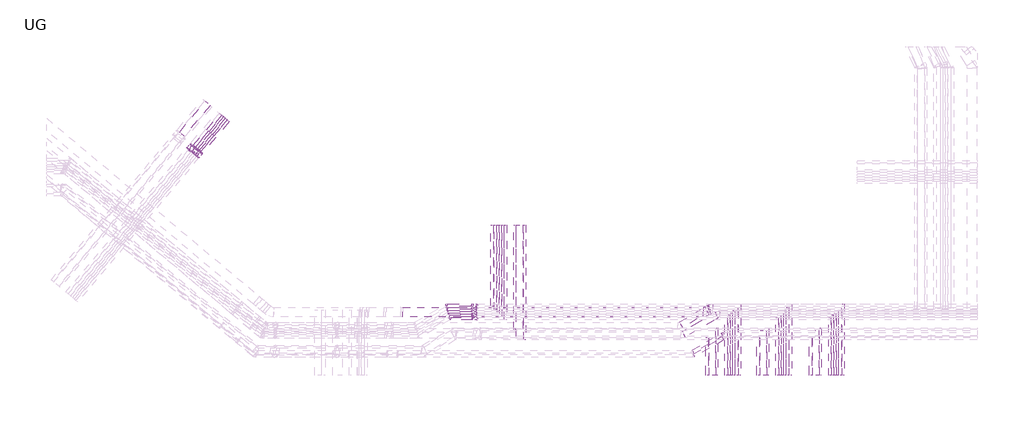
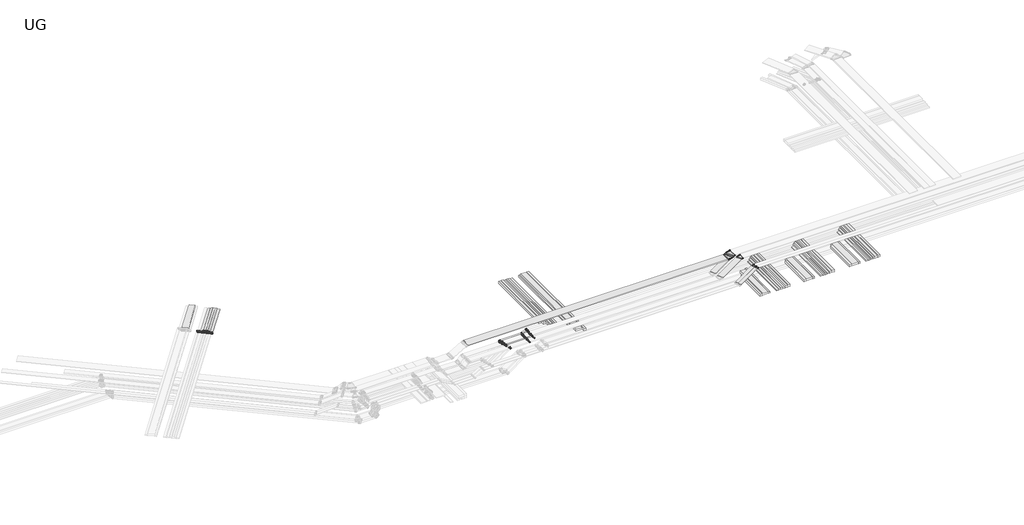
# One storey, part 9 of 14: 66 cable carrier segments, 35 cable carrier fittings.
"""IFC4 building model written with IfcOpenShell, lengths in millimetres."""

from ifc_helpers import new_model, si_unit, frame, origin, place, context, project, spatial, polyline, outline, extrude, transform, mapped, element, save
from components import cable_tray_horizontal_bend_a37de1d9, cable_tray_horizontal_bend_fe87960c, cable_tray_horizontal_bend_6dfea8e0, cable_tray_horizontal_bend_a9337890, cable_tray_horizontal_bend_bf25e040, cable_tray_horizontal_bend_72472c01, cable_tray_horizontal_bend_c8e18077, cable_tray_horizontal_bend_4a9e27ca, cable_tray_vertical_inside_bend_842d2f61, cable_tray_vertical_inside_bend_116ae7c4, cable_tray_vertical_inside_bend_28de77c7, cable_tray_vertical_inside_bend_b77830ab, cable_tray_vertical_inside_bend_fd30bc78, cable_tray_vertical_inside_bend_52d12825, cable_tray_vertical_outside_bend_fceaed45, cable_tray_vertical_outside_bend_ce2e8d87, cable_tray_vertical_outside_bend_05a7bdd1, cable_tray_vertical_outside_bend_a0ea44ad, cable_tray_vertical_outside_bend_6aaffd74, cable_tray_vertical_outside_bend_f33e1a20, cable_tray_vertical_outside_bend_f54c5729

model = new_model("IFC4")

# Units and contexts
model_context = context("Model", 3, world=origin())
ifc_project = project(units=[si_unit("LENGTHUNIT", "METRE", prefix="MILLI")], contexts=[model_context])

# Site, building, storey
site = spatial("IfcSite", under=ifc_project)
building = spatial("IfcBuilding", under=site)
storey = spatial("IfcBuildingStorey", under=building, Name="UG", Elevation=7925.0)

# Cable carrier fittings
placement = place(None, origin())
cable_tray_horizontal_bend_shape = cable_tray_horizontal_bend_a37de1d9(model_context)
element("IfcCableCarrierFitting", 1, ObjectType="Cable Tray Horizontal Bend : ELEC_ELV_TKG_N2402", at=placement, inside=storey, context=model_context, shape_type="MappedRepresentation", body=[
    mapped(cable_tray_horizontal_bend_shape, transform((128921.9755733, 34643.5234082, 12875.0), x_axis=(-0.6427876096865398, -0.7660444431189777, 0.0), y_axis=(0.0, 0.0, 1.0), z_axis=(-0.7660444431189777, 0.6427876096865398, 0.0))),
])
element("IfcCableCarrierFitting", 2, ObjectType="Cable Tray Horizontal Bend : ELEC_ELV_TKG_N2402", at=placement, inside=storey, context=model_context, shape_type="MappedRepresentation", body=[
    mapped(cable_tray_horizontal_bend_shape, transform((128807.0689069, 34739.9415497, 12875.0), x_axis=(-0.6427876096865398, -0.7660444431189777, 0.0), y_axis=(0.0, 0.0, 1.0), z_axis=(-0.7660444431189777, 0.6427876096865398, 0.0))),
])
element("IfcCableCarrierFitting", 3, ObjectType="Cable Tray Horizontal Bend : ELEC_ELV_TKG_N2402", at=placement, inside=storey, context=model_context, shape_type="MappedRepresentation", body=[
    mapped(cable_tray_horizontal_bend_shape, transform((128692.1622404, 34836.3596911, 12875.0), x_axis=(-0.6427876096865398, -0.7660444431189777, 0.0), y_axis=(0.0, 0.0, 1.0), z_axis=(-0.7660444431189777, 0.6427876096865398, 0.0))),
])
cable_tray_horizontal_bend_2_shape = cable_tray_horizontal_bend_fe87960c(model_context)
element("IfcCableCarrierFitting", 4, ObjectType="Cable Tray Horizontal Bend : ELEC_ELV_CT_N2402", at=placement, inside=storey, context=model_context, shape_type="MappedRepresentation", body=[
    mapped(cable_tray_horizontal_bend_2_shape, transform((129030.2012532, 34539.1933451, 12850.0), x_axis=(-0.6427876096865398, -0.7660444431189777, 0.0), y_axis=(0.0, 0.0, 1.0), z_axis=(-0.7660444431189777, 0.6427876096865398, 0.0))),
])
element("IfcCableCarrierFitting", 5, ObjectType="Cable Tray Horizontal Bend : ELEC_ELV_CT_N2402", at=placement, inside=storey, context=model_context, shape_type="MappedRepresentation", body=[
    mapped(cable_tray_horizontal_bend_2_shape, transform((128551.4234763, 34940.9356011, 12850.0), x_axis=(-0.6427876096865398, -0.7660444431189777, 0.0), y_axis=(0.0, 0.0, 1.0), z_axis=(-0.7660444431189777, 0.6427876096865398, 0.0))),
])
element("IfcCableCarrierFitting", 6, ObjectType="Cable Tray Horizontal Bend : ELEC_ELV_CT_N2402", at=placement, inside=storey, context=model_context, shape_type="MappedRepresentation", body=[
    mapped(cable_tray_horizontal_bend_2_shape, transform((128398.2145876, 35069.4931231, 12850.0), x_axis=(-0.6427876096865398, -0.7660444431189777, 0.0), y_axis=(0.0, 0.0, 1.0), z_axis=(-0.7660444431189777, 0.6427876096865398, 0.0))),
])
cable_tray_horizontal_bend_3_shape = cable_tray_horizontal_bend_6dfea8e0(model_context)
element("IfcCableCarrierFitting", 7, ObjectType="Cable Tray Horizontal Bend : ELEC_SUB_CT_N2402", at=placement, inside=storey, context=model_context, shape_type="MappedRepresentation", body=[
    mapped(cable_tray_horizontal_bend_3_shape, transform((161471.3279101, 24400.000008, 13500.0), x_axis=(-1.0, 0.0, 0.0), y_axis=(0.0, -1.0, 0.0), z_axis=(0.0, 0.0, 1.0))),
])
element("IfcCableCarrierFitting", 8, ObjectType="Cable Tray Horizontal Bend : ELEC_SUB_CT_N2402", at=placement, inside=storey, context=model_context, shape_type="MappedRepresentation", body=[
    mapped(cable_tray_horizontal_bend_3_shape, transform((161031.8306068, 24850.000008, 13499.9999917), x_axis=(-1.0, 0.0, 0.0), y_axis=(0.0, -1.0, 0.0), z_axis=(0.0, 0.0, 1.0))),
])
cable_tray_horizontal_bend_4_shape = cable_tray_horizontal_bend_a9337890(model_context)
element("IfcCableCarrierFitting", 9, ObjectType="Cable Tray Horizontal Bend : ELEC_SUB_CT_N2402", at=placement, inside=storey, context=model_context, shape_type="MappedRepresentation", body=[
    mapped(cable_tray_horizontal_bend_4_shape, transform((161821.4439974, 22899.9891021, 13499.999992), x_axis=(-1.0, 0.0, 0.0), y_axis=(0.0, -1.0, 0.0), z_axis=(0.0, 0.0, 1.0))),
])
element("IfcCableCarrierFitting", 10, ObjectType="Cable Tray Horizontal Bend : ELEC_SUB_CT_N2402", at=placement, inside=storey, context=model_context, shape_type="MappedRepresentation", body=[
    mapped(cable_tray_horizontal_bend_4_shape, transform((161754.4566993, 23149.9891021, 13499.999992), x_axis=(-1.0, 0.0, 0.0), y_axis=(0.0, -1.0, 0.0), z_axis=(0.0, 0.0, 1.0))),
])
cable_tray_horizontal_bend_5_shape = cable_tray_horizontal_bend_bf25e040(model_context)
element("IfcCableCarrierFitting", 11, ObjectType="Cable Tray Horizontal Bend : ELEC_SUB_CT_N2402", at=placement, inside=storey, context=model_context, shape_type="MappedRepresentation", body=[
    mapped(cable_tray_horizontal_bend_5_shape, transform((161005.7568709, 24750.000008, 13725.0), x_axis=(-1.0, 0.0, 0.0), y_axis=(0.0, -1.0, 0.0), z_axis=(0.0, 0.0, 1.0))),
])
element("IfcCableCarrierFitting", 12, ObjectType="Cable Tray Horizontal Bend : ELEC_SUB_CT_N2402", at=placement, inside=storey, context=model_context, shape_type="MappedRepresentation", body=[
    mapped(cable_tray_horizontal_bend_5_shape, transform((160659.3011524, 24549.9737056, 13725.0), x_axis=(1.0, 0.0, 0.0), y_axis=(0.0, 1.0, 0.0), z_axis=(0.0, 0.0, 1.0))),
])
cable_tray_horizontal_bend_6_shape = cable_tray_horizontal_bend_72472c01(model_context)
element("IfcCableCarrierFitting", 13, ObjectType="Cable Tray Horizontal Bend : ELEC_ELV_TKG_N2402", at=placement, inside=storey, context=model_context, shape_type="MappedRepresentation", body=[
    mapped(cable_tray_horizontal_bend_6_shape, transform((144467.3164108, 24775.0000035, 12649.8542086), x_axis=(-0.99999999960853, 0.0, 2.7981063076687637e-05), y_axis=(2.0978811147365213e-10, -0.9999999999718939, 7.497503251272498e-06), z_axis=(2.7981063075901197e-05, 7.497503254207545e-06, 0.999999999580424))),
])
element("IfcCableCarrierFitting", 14, ObjectType="Cable Tray Horizontal Bend : ELEC_ELV_TKG_N2402", at=placement, inside=storey, context=model_context, shape_type="MappedRepresentation", body=[
    mapped(cable_tray_horizontal_bend_6_shape, transform((144413.7265723, 24975.0000035, 12649.8527091), x_axis=(-0.9999999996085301, 0.0, 2.798106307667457e-05), y_axis=(2.0978811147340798e-10, -0.9999999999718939, 7.497503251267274e-06), z_axis=(2.7981063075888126e-05, 7.4975032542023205e-06, 0.9999999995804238))),
])
cable_tray_horizontal_bend_7_shape = cable_tray_horizontal_bend_c8e18077(model_context)
element("IfcCableCarrierFitting", 15, ObjectType="Cable Tray Horizontal Bend : ELEC_ELV_TKG_N2402", at=placement, inside=storey, context=model_context, shape_type="MappedRepresentation", body=[
    mapped(cable_tray_horizontal_bend_7_shape, transform((144554.3998983, 24450.0000036, 12624.8566452), x_axis=(-0.9999999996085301, 0.0, 2.798106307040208e-05), y_axis=(2.0978811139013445e-10, -0.999999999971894, 7.497503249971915e-06), z_axis=(2.798106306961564e-05, 7.4975032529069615e-06, 0.999999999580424))),
])
element("IfcCableCarrierFitting", 16, ObjectType="Cable Tray Horizontal Bend : ELEC_ELV_TKG_N2402", at=placement, inside=storey, context=model_context, shape_type="MappedRepresentation", body=[
    mapped(cable_tray_horizontal_bend_7_shape, transform((144514.2075195, 24600.0000036, 12624.855051), x_axis=(-0.9999999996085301, 0.0, 2.7981063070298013e-05), y_axis=(2.0978811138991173e-10, -0.9999999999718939, 7.49750324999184e-06), z_axis=(2.7981063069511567e-05, 7.497503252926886e-06, 0.9999999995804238))),
])
cable_tray_horizontal_bend_8_shape = cable_tray_horizontal_bend_4a9e27ca(model_context)
element("IfcCableCarrierFitting", 17, ObjectType="Cable Tray Horizontal Bend : ELEC_ELV_CT_N2402", at=placement, inside=storey, context=model_context, shape_type="MappedRepresentation", body=[
    mapped(cable_tray_horizontal_bend_8_shape, transform((144641.4833859, 24125.0000036, 12599.8578376), x_axis=(-0.9999999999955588, 0.0, -2.9803507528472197e-06), y_axis=(-3.481129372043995e-10, -0.9999999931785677, 0.00011680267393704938), z_axis=(-2.980350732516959e-06, 0.00011680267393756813, 0.9999999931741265))),
])
cable_tray_vertical_inside_bend_shape = cable_tray_vertical_inside_bend_842d2f61(model_context)
element("IfcCableCarrierFitting", 18, ObjectType="Cable Tray Vertical Inside Bend : ELEC_ELV_CT_N2402", at=placement, inside=storey, context=model_context, shape_type="MappedRepresentation", body=[
    mapped(cable_tray_vertical_inside_bend_shape, transform((146020.8761882, 24125.0000036, 12599.8750622), x_axis=(-0.8660254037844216, 0.0, -0.5000000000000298), y_axis=(-0.5000000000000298, 0.0, 0.8660254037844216), z_axis=(0.0, 1.0, 0.0))),
])
cable_tray_vertical_inside_bend_2_shape = cable_tray_vertical_inside_bend_116ae7c4(model_context)
element("IfcCableCarrierFitting", 19, ObjectType="Cable Tray Vertical Inside Bend : ELEC_ELV_TKG_N2402", at=placement, inside=storey, context=model_context, shape_type="MappedRepresentation", body=[
    mapped(cable_tray_vertical_inside_bend_2_shape, transform((146014.1777906, 24300.0000036, 12624.875254), x_axis=(-0.8660254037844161, 0.0, -0.5000000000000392), y_axis=(-0.5000000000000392, 0.0, 0.8660254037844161), z_axis=(0.0, 1.0, 0.0))),
])
cable_tray_vertical_inside_bend_3_shape = cable_tray_vertical_inside_bend_28de77c7(model_context)
element("IfcCableCarrierFitting", 20, ObjectType="Cable Tray Vertical Inside Bend : ELEC_ELV_TKG_N2402", at=placement, inside=storey, context=model_context, shape_type="MappedRepresentation", body=[
    mapped(cable_tray_vertical_inside_bend_3_shape, transform((146014.1734692, 24450.0000036, 12624.8752586), x_axis=(-0.8660254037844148, 0.0, -0.5000000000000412), y_axis=(-0.5000000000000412, 0.0, 0.8660254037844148), z_axis=(0.0, 1.0, 0.0))),
])
cable_tray_vertical_inside_bend_4_shape = cable_tray_vertical_inside_bend_b77830ab(model_context)
element("IfcCableCarrierFitting", 21, ObjectType="Cable Tray Vertical Inside Bend : ELEC_ELV_TKG_N2402", at=placement, inside=storey, context=model_context, shape_type="MappedRepresentation", body=[
    mapped(cable_tray_vertical_inside_bend_4_shape, transform((145997.3941908, 24600.0000036, 12624.8752656), x_axis=(-0.8660254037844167, 0.0, -0.5000000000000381), y_axis=(-0.5000000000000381, 0.0, 0.8660254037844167), z_axis=(0.0, 1.0, 0.0))),
])
cable_tray_vertical_inside_bend_5_shape = cable_tray_vertical_inside_bend_fd30bc78(model_context)
element("IfcCableCarrierFitting", 22, ObjectType="Cable Tray Vertical Inside Bend : ELEC_ELV_TKG_N2402", at=placement, inside=storey, context=model_context, shape_type="MappedRepresentation", body=[
    mapped(cable_tray_vertical_inside_bend_5_shape, transform((146007.4801577, 24775.0000035, 12649.8758873), x_axis=(-0.8660254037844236, 0.0, -0.5000000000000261), y_axis=(-0.5000000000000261, 0.0, 0.8660254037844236), z_axis=(0.0, 1.0, 0.0))),
])
cable_tray_vertical_inside_bend_6_shape = cable_tray_vertical_inside_bend_52d12825(model_context)
element("IfcCableCarrierFitting", 23, ObjectType="Cable Tray Vertical Inside Bend : ELEC_ELV_TKG_N2402", at=placement, inside=storey, context=model_context, shape_type="MappedRepresentation", body=[
    mapped(cable_tray_vertical_inside_bend_6_shape, transform((146007.4801729, 24975.0000035, 12649.8758961), x_axis=(-0.8660254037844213, 0.0, -0.5000000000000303), y_axis=(-0.5000000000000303, 0.0, 0.8660254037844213), z_axis=(0.0, 1.0, 0.0))),
])
cable_tray_vertical_outside_bend_shape = cable_tray_vertical_outside_bend_fceaed45(model_context)
element("IfcCableCarrierFitting", 24, ObjectType="Cable Tray Vertical Outside Bend : ELEC_ELV_TKG_N2402", at=placement, inside=storey, context=model_context, shape_type="MappedRepresentation", body=[
    mapped(cable_tray_vertical_outside_bend_shape, transform((128708.8031583, 34389.4744167, 13206.6374053), x_axis=(-0.45451947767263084, -0.5416752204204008, 0.7071067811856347), y_axis=(-0.4545194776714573, -0.5416752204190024, -0.7071067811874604), z_axis=(0.7660444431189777, -0.6427876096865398, 0.0))),
])
element("IfcCableCarrierFitting", 25, ObjectType="Cable Tray Vertical Outside Bend : ELEC_ELV_TKG_N2402", at=placement, inside=storey, context=model_context, shape_type="MappedRepresentation", body=[
    mapped(cable_tray_vertical_outside_bend_shape, transform((128593.8964918, 34485.8925582, 13206.6374053), x_axis=(-0.45451947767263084, -0.5416752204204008, 0.7071067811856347), y_axis=(-0.4545194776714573, -0.5416752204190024, -0.7071067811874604), z_axis=(0.7660444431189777, -0.6427876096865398, 0.0))),
])
element("IfcCableCarrierFitting", 26, ObjectType="Cable Tray Vertical Outside Bend : ELEC_ELV_TKG_N2402", at=placement, inside=storey, context=model_context, shape_type="MappedRepresentation", body=[
    mapped(cable_tray_vertical_outside_bend_shape, transform((128478.9898254, 34582.3106997, 13206.6374053), x_axis=(-0.45451947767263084, -0.5416752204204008, 0.7071067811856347), y_axis=(-0.4545194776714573, -0.5416752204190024, -0.7071067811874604), z_axis=(0.7660444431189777, -0.6427876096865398, 0.0))),
])
cable_tray_vertical_outside_bend_2_shape = cable_tray_vertical_outside_bend_ce2e8d87(model_context)
element("IfcCableCarrierFitting", 27, ObjectType="Cable Tray Vertical Outside Bend : ELEC_ELV_CT_N2402", at=placement, inside=storey, context=model_context, shape_type="MappedRepresentation", body=[
    mapped(cable_tray_vertical_outside_bend_2_shape, transform((128817.0288384, 34285.1443539, 13181.6374049), x_axis=(-0.4545194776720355, -0.5416752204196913, 0.707106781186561), y_axis=(-0.4545194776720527, -0.541675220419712, -0.7071067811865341), z_axis=(0.7660444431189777, -0.6427876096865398, 0.0))),
])
element("IfcCableCarrierFitting", 28, ObjectType="Cable Tray Vertical Outside Bend : ELEC_ELV_CT_N2402", at=placement, inside=storey, context=model_context, shape_type="MappedRepresentation", body=[
    mapped(cable_tray_vertical_outside_bend_2_shape, transform((128338.2510615, 34686.88661, 13181.6374049), x_axis=(-0.4545194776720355, -0.5416752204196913, 0.707106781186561), y_axis=(-0.4545194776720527, -0.541675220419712, -0.7071067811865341), z_axis=(0.7660444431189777, -0.6427876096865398, 0.0))),
])
element("IfcCableCarrierFitting", 29, ObjectType="Cable Tray Vertical Outside Bend : ELEC_ELV_CT_N2402", at=placement, inside=storey, context=model_context, shape_type="MappedRepresentation", body=[
    mapped(cable_tray_vertical_outside_bend_2_shape, transform((128185.0421729, 34815.4441319, 13181.6374049), x_axis=(-0.4545194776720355, -0.5416752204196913, 0.707106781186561), y_axis=(-0.4545194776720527, -0.541675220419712, -0.7071067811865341), z_axis=(0.7660444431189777, -0.6427876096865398, 0.0))),
])
cable_tray_vertical_outside_bend_3_shape = cable_tray_vertical_outside_bend_05a7bdd1(model_context)
element("IfcCableCarrierFitting", 30, ObjectType="Cable Tray Vertical Outside Bend : ELEC_ELV_TKG_N2402", at=placement, inside=storey, context=model_context, shape_type="MappedRepresentation", body=[
    mapped(cable_tray_vertical_outside_bend_3_shape, transform((146327.2992484, 24775.0000035, 12834.5235254), x_axis=(-0.9999999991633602, 0.0, 4.090574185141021e-05), y_axis=(-4.090574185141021e-05, 0.0, -0.9999999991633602), z_axis=(0.0, -1.0, 0.0))),
])
cable_tray_vertical_outside_bend_4_shape = cable_tray_vertical_outside_bend_a0ea44ad(model_context)
element("IfcCableCarrierFitting", 31, ObjectType="Cable Tray Vertical Outside Bend : ELEC_ELV_CT_N2402", at=placement, inside=storey, context=model_context, shape_type="MappedRepresentation", body=[
    mapped(cable_tray_vertical_outside_bend_4_shape, transform((146348.9939046, 24125.0000036, 12789.3139141), x_axis=(0.8660254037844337, 0.0, 0.5000000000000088), y_axis=(0.5000000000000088, 0.0, -0.8660254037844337), z_axis=(0.0, 1.0, 0.0))),
])
cable_tray_vertical_outside_bend_5_shape = cable_tray_vertical_outside_bend_6aaffd74(model_context)
element("IfcCableCarrierFitting", 32, ObjectType="Cable Tray Vertical Outside Bend : ELEC_ELV_TKG_N2402", at=placement, inside=storey, context=model_context, shape_type="MappedRepresentation", body=[
    mapped(cable_tray_vertical_outside_bend_5_shape, transform((146326.1630015, 24300.0000036, 12804.9999995), x_axis=(-1.0, 0.0, 0.0), y_axis=(0.0, 0.0, -1.0), z_axis=(0.0, -1.0, 0.0))),
])
element("IfcCableCarrierFitting", 33, ObjectType="Cable Tray Vertical Outside Bend : ELEC_ELV_TKG_N2402", at=placement, inside=storey, context=model_context, shape_type="MappedRepresentation", body=[
    mapped(cable_tray_vertical_outside_bend_5_shape, transform((146309.3793816, 24600.0000036, 12804.9999995), x_axis=(0.8660254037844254, 0.0, 0.500000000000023), y_axis=(0.500000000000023, 0.0, -0.8660254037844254), z_axis=(0.0, 1.0, 0.0))),
])
cable_tray_vertical_outside_bend_6_shape = cable_tray_vertical_outside_bend_f33e1a20(model_context)
element("IfcCableCarrierFitting", 34, ObjectType="Cable Tray Vertical Outside Bend : ELEC_ELV_TKG_N2402", at=placement, inside=storey, context=model_context, shape_type="MappedRepresentation", body=[
    mapped(cable_tray_vertical_outside_bend_6_shape, transform((146342.3871525, 24450.0000036, 12814.3695171), x_axis=(0.8660254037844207, 0.0, 0.5000000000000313), y_axis=(0.5000000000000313, 0.0, -0.8660254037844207), z_axis=(0.0, 1.0, 0.0))),
])
cable_tray_vertical_outside_bend_7_shape = cable_tray_vertical_outside_bend_f54c5729(model_context)
element("IfcCableCarrierFitting", 35, ObjectType="Cable Tray Vertical Outside Bend : ELEC_ELV_TKG_N2402", at=placement, inside=storey, context=model_context, shape_type="MappedRepresentation", body=[
    mapped(cable_tray_vertical_outside_bend_7_shape, transform((146327.2862176, 24975.0000036, 12834.5160021), x_axis=(0.86602540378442, 0.0, 0.5000000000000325), y_axis=(0.5000000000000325, 0.0, -0.86602540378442), z_axis=(0.0, 1.0, 0.0))),
])

# Cable carrier segments
element("IfcCableCarrierSegment", 36, ObjectType="ELEC_ELV_CT_N2402", at=placement, inside=storey, context=model_context, shape_type="SweptSolid", body=[
    extrude(outline(polyline([(161892.2220567, 24200.0000035), (162042.2220567, 24200.0000035), (162042.2220567, 20563.0534549), (161892.2220567, 20563.0534549), (161892.2220567, 24200.0000035)])), frame((0.0, 0.0, 13074.9999954), z_axis=(0.0, 0.0, 1.0), x_axis=(1.0, 0.0, 0.0)), (0.0, 0.0, 1.0), 50.0),
])
element("IfcCableCarrierSegment", 37, ObjectType="ELEC_ELV_TKG_N2402", at=placement, inside=storey, context=model_context, shape_type="SweptSolid", body=[
    extrude(outline(polyline([(162242.2220567, 24500.0000036), (162342.2220567, 24500.0000036), (162342.2220567, 20563.0534549), (162242.2220567, 20563.0534549), (162242.2220567, 24500.0000036)])), frame((0.0, 0.0, 13074.9999954), z_axis=(0.0, 0.0, 1.0), x_axis=(1.0, 0.0, 0.0)), (0.0, 0.0, 1.0), 100.0),
])
element("IfcCableCarrierSegment", 38, ObjectType="ELEC_ELV_TKG_N2402", at=placement, inside=storey, context=model_context, shape_type="SweptSolid", body=[
    extrude(outline(polyline([(162492.2220567, 20563.0534549), (162392.2220567, 20563.0534549), (162392.2220567, 24650.0000036), (162492.2220567, 24650.0000036), (162492.2220567, 20563.0534549)])), frame((0.0, 0.0, 13074.9999954), z_axis=(0.0, 0.0, 1.0), x_axis=(1.0, 0.0, 0.0)), (0.0, 0.0, 1.0), 100.0),
])
element("IfcCableCarrierSegment", 39, ObjectType="ELEC_ELV_TKG_N2402", at=placement, inside=storey, context=model_context, shape_type="SweptSolid", body=[
    extrude(outline(polyline([(162192.2220567, 20563.0534549), (162092.2220567, 20563.0534549), (162092.2220567, 24350.0000036), (162192.2220567, 24350.0000036), (162192.2220567, 20563.0534549)])), frame((0.0, 0.0, 13074.9999954), z_axis=(0.0, 0.0, 1.0), x_axis=(1.0, 0.0, 0.0)), (0.0, 0.0, 1.0), 100.0),
])
element("IfcCableCarrierSegment", 40, ObjectType="ELEC_ELV_TKG_N2402", at=placement, inside=storey, context=model_context, shape_type="SweptSolid", body=[
    extrude(outline(polyline([(162542.2220567, 24850.0000036), (162692.2220567, 24850.0000036), (162692.2220567, 20563.0534549), (162542.2220567, 20563.0534549), (162542.2220567, 24850.0000036)])), frame((0.0, 0.0, 13074.9999954), z_axis=(0.0, 0.0, 1.0), x_axis=(1.0, 0.0, 0.0)), (0.0, 0.0, 1.0), 150.0),
])
element("IfcCableCarrierSegment", 41, ObjectType="ELEC_ELV_TKG_N2402", at=placement, inside=storey, context=model_context, shape_type="SweptSolid", body=[
    extrude(outline(polyline([(160892.127277, 23400.0), (161292.127277, 23400.0), (161292.127277, 20563.0534549), (160892.127277, 20563.0534549), (160892.127277, 23400.0)])), frame((0.0, 0.0, 13074.9999873), z_axis=(0.0, 0.0, 1.0), x_axis=(1.0, 0.0, 0.0)), (0.0, 0.0, 1.0), 150.0),
])
element("IfcCableCarrierSegment", 42, ObjectType="ELEC_ELV_TKG_N2402", at=placement, inside=storey, context=model_context, shape_type="SweptSolid", body=[
    extrude(outline(polyline([(160842.127277, 20563.0534549), (160692.127277, 20563.0534549), (160692.127277, 22950.0000046), (160842.127277, 22950.0000046), (160842.127277, 20563.0534549)])), frame((0.0, 0.0, 13074.9999873), z_axis=(0.0, 0.0, 1.0), x_axis=(1.0, 0.0, 0.0)), (0.0, 0.0, 1.0), 150.0),
])
element("IfcCableCarrierSegment", 43, ObjectType="ELEC_ELV_TKG_N2402", at=placement, inside=storey, context=model_context, shape_type="SweptSolid", body=[
    extrude(outline(polyline([(161442.127277, 20563.0534549), (161342.127277, 20563.0534549), (161342.127277, 23550.0), (161442.127277, 23550.0), (161442.127277, 20563.0534549)])), frame((0.0, 0.0, 13074.9999954), z_axis=(0.0, 0.0, 1.0), x_axis=(1.0, 0.0, 0.0)), (0.0, 0.0, 1.0), 100.0),
])
element("IfcCableCarrierSegment", 44, ObjectType="ELEC_ELV_TKG_N2402", at=placement, inside=storey, context=model_context, shape_type="SweptSolid", body=[
    extrude(outline(polyline([(162742.2220567, 25050.0000036), (162892.2220567, 25050.0000036), (162892.2220567, 20563.0534549), (162742.2220567, 20563.0534549), (162742.2220567, 25050.0000036)])), frame((0.0, 0.0, 13074.9999954), z_axis=(0.0, 0.0, 1.0), x_axis=(1.0, 0.0, 0.0)), (0.0, 0.0, 1.0), 150.0),
])
element("IfcCableCarrierSegment", 45, ObjectType="ELEC_ELV_CT_N2402", at=placement, inside=storey, context=model_context, shape_type="SweptSolid", body=[
    extrude(outline(polyline([(168392.2220567, 24200.0000035), (168542.2220567, 24200.0000035), (168542.2220567, 20563.0534549), (168392.2220567, 20563.0534549), (168392.2220567, 24200.0000035)])), frame((0.0, 0.0, 13074.9999954), z_axis=(0.0, 0.0, 1.0), x_axis=(1.0, 0.0, 0.0)), (0.0, 0.0, 1.0), 50.0),
])
element("IfcCableCarrierSegment", 46, ObjectType="ELEC_ELV_TKG_N2402", at=placement, inside=storey, context=model_context, shape_type="SweptSolid", body=[
    extrude(outline(polyline([(168742.2220567, 24500.0000036), (168842.2220567, 24500.0000036), (168842.2220567, 20563.0534549), (168742.2220567, 20563.0534549), (168742.2220567, 24500.0000036)])), frame((0.0, 0.0, 13074.9999954), z_axis=(0.0, 0.0, 1.0), x_axis=(1.0, 0.0, 0.0)), (0.0, 0.0, 1.0), 100.0),
])
element("IfcCableCarrierSegment", 47, ObjectType="ELEC_ELV_TKG_N2402", at=placement, inside=storey, context=model_context, shape_type="SweptSolid", body=[
    extrude(outline(polyline([(168992.2220567, 20563.0534549), (168892.2220567, 20563.0534549), (168892.2220567, 24650.0000036), (168992.2220567, 24650.0000036), (168992.2220567, 20563.0534549)])), frame((0.0, 0.0, 13074.9999954), z_axis=(0.0, 0.0, 1.0), x_axis=(1.0, 0.0, 0.0)), (0.0, 0.0, 1.0), 100.0),
])
element("IfcCableCarrierSegment", 48, ObjectType="ELEC_ELV_TKG_N2402", at=placement, inside=storey, context=model_context, shape_type="SweptSolid", body=[
    extrude(outline(polyline([(168692.2220567, 20563.0534549), (168592.2220567, 20563.0534549), (168592.2220567, 24350.0000036), (168692.2220567, 24350.0000036), (168692.2220567, 20563.0534549)])), frame((0.0, 0.0, 13074.9999954), z_axis=(0.0, 0.0, 1.0), x_axis=(1.0, 0.0, 0.0)), (0.0, 0.0, 1.0), 100.0),
])
element("IfcCableCarrierSegment", 49, ObjectType="ELEC_ELV_TKG_N2402", at=placement, inside=storey, context=model_context, shape_type="SweptSolid", body=[
    extrude(outline(polyline([(169042.2220567, 24850.0000036), (169192.2220567, 24850.0000036), (169192.2220567, 20563.0534549), (169042.2220567, 20563.0534549), (169042.2220567, 24850.0000036)])), frame((0.0, 0.0, 13074.9999954), z_axis=(0.0, 0.0, 1.0), x_axis=(1.0, 0.0, 0.0)), (0.0, 0.0, 1.0), 150.0),
])
element("IfcCableCarrierSegment", 50, ObjectType="ELEC_ELV_TKG_N2402", at=placement, inside=storey, context=model_context, shape_type="SweptSolid", body=[
    extrude(outline(polyline([(167392.127277, 23400.0), (167792.127277, 23400.0), (167792.127277, 20563.0534549), (167392.127277, 20563.0534549), (167392.127277, 23400.0)])), frame((0.0, 0.0, 13074.9999873), z_axis=(0.0, 0.0, 1.0), x_axis=(1.0, 0.0, 0.0)), (0.0, 0.0, 1.0), 150.0),
])
element("IfcCableCarrierSegment", 51, ObjectType="ELEC_ELV_TKG_N2402", at=placement, inside=storey, context=model_context, shape_type="SweptSolid", body=[
    extrude(outline(polyline([(167342.127277, 20563.0534549), (167192.127277, 20563.0534549), (167192.127277, 22950.0000046), (167342.127277, 22950.0000046), (167342.127277, 20563.0534549)])), frame((0.0, 0.0, 13074.9999873), z_axis=(0.0, 0.0, 1.0), x_axis=(1.0, 0.0, 0.0)), (0.0, 0.0, 1.0), 150.0),
])
element("IfcCableCarrierSegment", 52, ObjectType="ELEC_ELV_TKG_N2402", at=placement, inside=storey, context=model_context, shape_type="SweptSolid", body=[
    extrude(outline(polyline([(167942.127277, 20563.0534549), (167842.127277, 20563.0534549), (167842.127277, 23550.0), (167942.127277, 23550.0), (167942.127277, 20563.0534549)])), frame((0.0, 0.0, 13074.9999954), z_axis=(0.0, 0.0, 1.0), x_axis=(1.0, 0.0, 0.0)), (0.0, 0.0, 1.0), 100.0),
])
element("IfcCableCarrierSegment", 53, ObjectType="ELEC_ELV_TKG_N2402", at=placement, inside=storey, context=model_context, shape_type="SweptSolid", body=[
    extrude(outline(polyline([(169242.2220567, 25050.0000036), (169392.2220567, 25050.0000036), (169392.2220567, 20563.0534549), (169242.2220567, 20563.0534549), (169242.2220567, 25050.0000036)])), frame((0.0, 0.0, 13074.9999954), z_axis=(0.0, 0.0, 1.0), x_axis=(1.0, 0.0, 0.0)), (0.0, 0.0, 1.0), 150.0),
])
element("IfcCableCarrierSegment", 54, ObjectType="ELEC_ELV_CT_N2402", at=placement, inside=storey, context=model_context, shape_type="SweptSolid", body=[
    extrude(outline(polyline([(165092.2220567, 24200.0000035), (165242.2220567, 24200.0000035), (165242.2220567, 20563.0534549), (165092.2220567, 20563.0534549), (165092.2220567, 24200.0000035)])), frame((0.0, 0.0, 13074.9999954), z_axis=(0.0, 0.0, 1.0), x_axis=(1.0, 0.0, 0.0)), (0.0, 0.0, 1.0), 50.0),
])
element("IfcCableCarrierSegment", 55, ObjectType="ELEC_ELV_TKG_N2402", at=placement, inside=storey, context=model_context, shape_type="SweptSolid", body=[
    extrude(outline(polyline([(165442.2220567, 24500.0000036), (165542.2220567, 24500.0000036), (165542.2220567, 20563.0534549), (165442.2220567, 20563.0534549), (165442.2220567, 24500.0000036)])), frame((0.0, 0.0, 13074.9999954), z_axis=(0.0, 0.0, 1.0), x_axis=(1.0, 0.0, 0.0)), (0.0, 0.0, 1.0), 100.0),
])
element("IfcCableCarrierSegment", 56, ObjectType="ELEC_ELV_TKG_N2402", at=placement, inside=storey, context=model_context, shape_type="SweptSolid", body=[
    extrude(outline(polyline([(165692.2220567, 20563.0534549), (165592.2220567, 20563.0534549), (165592.2220567, 24650.0000036), (165692.2220567, 24650.0000036), (165692.2220567, 20563.0534549)])), frame((0.0, 0.0, 13074.9999954), z_axis=(0.0, 0.0, 1.0), x_axis=(1.0, 0.0, 0.0)), (0.0, 0.0, 1.0), 100.0),
])
element("IfcCableCarrierSegment", 57, ObjectType="ELEC_ELV_TKG_N2402", at=placement, inside=storey, context=model_context, shape_type="SweptSolid", body=[
    extrude(outline(polyline([(165392.2220567, 20563.0534549), (165292.2220567, 20563.0534549), (165292.2220567, 24350.0000036), (165392.2220567, 24350.0000036), (165392.2220567, 20563.0534549)])), frame((0.0, 0.0, 13074.9999954), z_axis=(0.0, 0.0, 1.0), x_axis=(1.0, 0.0, 0.0)), (0.0, 0.0, 1.0), 100.0),
])
element("IfcCableCarrierSegment", 58, ObjectType="ELEC_ELV_TKG_N2402", at=placement, inside=storey, context=model_context, shape_type="SweptSolid", body=[
    extrude(outline(polyline([(165742.2220567, 24850.0000036), (165892.2220567, 24850.0000036), (165892.2220567, 20563.0534549), (165742.2220567, 20563.0534549), (165742.2220567, 24850.0000036)])), frame((0.0, 0.0, 13074.9999954), z_axis=(0.0, 0.0, 1.0), x_axis=(1.0, 0.0, 0.0)), (0.0, 0.0, 1.0), 150.0),
])
element("IfcCableCarrierSegment", 59, ObjectType="ELEC_ELV_TKG_N2402", at=placement, inside=storey, context=model_context, shape_type="SweptSolid", body=[
    extrude(outline(polyline([(164092.127277, 23400.0), (164492.127277, 23400.0), (164492.127277, 20563.0534549), (164092.127277, 20563.0534549), (164092.127277, 23400.0)])), frame((0.0, 0.0, 13074.9999873), z_axis=(0.0, 0.0, 1.0), x_axis=(1.0, 0.0, 0.0)), (0.0, 0.0, 1.0), 150.0),
])
element("IfcCableCarrierSegment", 60, ObjectType="ELEC_ELV_TKG_N2402", at=placement, inside=storey, context=model_context, shape_type="SweptSolid", body=[
    extrude(outline(polyline([(164042.127277, 20563.0534549), (163892.127277, 20563.0534549), (163892.127277, 22950.0000046), (164042.127277, 22950.0000046), (164042.127277, 20563.0534549)])), frame((0.0, 0.0, 13074.9999873), z_axis=(0.0, 0.0, 1.0), x_axis=(1.0, 0.0, 0.0)), (0.0, 0.0, 1.0), 150.0),
])
element("IfcCableCarrierSegment", 61, ObjectType="ELEC_ELV_TKG_N2402", at=placement, inside=storey, context=model_context, shape_type="SweptSolid", body=[
    extrude(outline(polyline([(164642.127277, 20563.0534549), (164542.127277, 20563.0534549), (164542.127277, 23550.0), (164642.127277, 23550.0), (164642.127277, 20563.0534549)])), frame((0.0, 0.0, 13074.9999954), z_axis=(0.0, 0.0, 1.0), x_axis=(1.0, 0.0, 0.0)), (0.0, 0.0, 1.0), 100.0),
])
element("IfcCableCarrierSegment", 62, ObjectType="ELEC_ELV_TKG_N2402", at=placement, inside=storey, context=model_context, shape_type="SweptSolid", body=[
    extrude(outline(polyline([(165942.2220567, 25050.0000036), (166092.2220567, 25050.0000036), (166092.2220567, 20563.0534549), (165942.2220567, 20563.0534549), (165942.2220567, 25050.0000036)])), frame((0.0, 0.0, 13074.9999954), z_axis=(0.0, 0.0, 1.0), x_axis=(1.0, 0.0, 0.0)), (0.0, 0.0, 1.0), 150.0),
])
element("IfcCableCarrierSegment", 63, ObjectType="ELEC_ELV_CT_N2402", at=placement, inside=storey, context=model_context, shape_type="SweptSolid", body=[
    extrude(outline(polyline([(148199.9052203, 24050.0000036), (148049.9052203, 24050.0000036), (148049.9052203, 30004.2993139), (148199.9052203, 30004.2993139), (148199.9052203, 24050.0000036)])), frame((0.0, 0.0, 13074.9999954), z_axis=(0.0, 0.0, 1.0), x_axis=(1.0, 0.0, 0.0)), (0.0, 0.0, 1.0), 50.0),
])
element("IfcCableCarrierSegment", 64, ObjectType="ELEC_ELV_TKG_N2402", at=placement, inside=storey, context=model_context, shape_type="SweptSolid", body=[
    extrude(outline(polyline([(147849.9052203, 24400.0000036), (147749.9052203, 24400.0000036), (147749.9052203, 30004.2993139), (147849.9052203, 30004.2993139), (147849.9052203, 24400.0000036)])), frame((0.0, 0.0, 13074.9999954), z_axis=(0.0, 0.0, 1.0), x_axis=(1.0, 0.0, 0.0)), (0.0, 0.0, 1.0), 100.0),
])
element("IfcCableCarrierSegment", 65, ObjectType="ELEC_ELV_TKG_N2402", at=placement, inside=storey, context=model_context, shape_type="SweptSolid", body=[
    extrude(outline(polyline([(147599.9052203, 30004.2993139), (147699.9052203, 30004.2993139), (147699.9052203, 24550.0000036), (147599.9052203, 24550.0000036), (147599.9052203, 30004.2993139)])), frame((0.0, 0.0, 13074.9999954), z_axis=(0.0, 0.0, 1.0), x_axis=(1.0, 0.0, 0.0)), (0.0, 0.0, 1.0), 100.0),
])
element("IfcCableCarrierSegment", 66, ObjectType="ELEC_ELV_TKG_N2402", at=placement, inside=storey, context=model_context, shape_type="SweptSolid", body=[
    extrude(outline(polyline([(147899.9052203, 30004.2993139), (147999.9052203, 30004.2993139), (147999.9052203, 24250.0000036), (147899.9052203, 24250.0000036), (147899.9052203, 30004.2993139)])), frame((0.0, 0.0, 13074.9999954), z_axis=(0.0, 0.0, 1.0), x_axis=(1.0, 0.0, 0.0)), (0.0, 0.0, 1.0), 100.0),
])
element("IfcCableCarrierSegment", 67, ObjectType="ELEC_ELV_TKG_N2402", at=placement, inside=storey, context=model_context, shape_type="SweptSolid", body=[
    extrude(outline(polyline([(147549.9052203, 24700.0000036), (147399.9052203, 24700.0000036), (147399.9052203, 30004.2993139), (147549.9052203, 30004.2993139), (147549.9052203, 24700.0000036)])), frame((0.0, 0.0, 13074.9999954), z_axis=(0.0, 0.0, 1.0), x_axis=(1.0, 0.0, 0.0)), (0.0, 0.0, 1.0), 150.0),
])
element("IfcCableCarrierSegment", 68, ObjectType="ELEC_ELV_TKG_N2402", at=placement, inside=storey, context=model_context, shape_type="SweptSolid", body=[
    extrude(outline(polyline([(149200.0, 23000.0), (148800.0, 23000.0), (148800.0, 30004.2993139), (149200.0, 30004.2993139), (149200.0, 23000.0)])), frame((0.0, 0.0, 13074.9999873), z_axis=(0.0, 0.0, 1.0), x_axis=(1.0, 0.0, 0.0)), (0.0, 0.0, 1.0), 150.0),
])
element("IfcCableCarrierSegment", 69, ObjectType="ELEC_ELV_TKG_N2402", at=placement, inside=storey, context=model_context, shape_type="SweptSolid", body=[
    extrude(outline(polyline([(149250.0, 30004.2993139), (149400.0, 30004.2993139), (149400.0, 22800.0000046), (149250.0, 22800.0000046), (149250.0, 30004.2993139)])), frame((0.0, 0.0, 13074.9999873), z_axis=(0.0, 0.0, 1.0), x_axis=(1.0, 0.0, 0.0)), (0.0, 0.0, 1.0), 150.0),
])
element("IfcCableCarrierSegment", 70, ObjectType="ELEC_ELV_TKG_N2402", at=placement, inside=storey, context=model_context, shape_type="SweptSolid", body=[
    extrude(outline(polyline([(148650.0, 30004.2993139), (148750.0, 30004.2993139), (148750.0, 23450.0), (148650.0, 23450.0), (148650.0, 30004.2993139)])), frame((0.0, 0.0, 13074.9999954), z_axis=(0.0, 0.0, 1.0), x_axis=(1.0, 0.0, 0.0)), (0.0, 0.0, 1.0), 100.0),
])
element("IfcCableCarrierSegment", 71, ObjectType="ELEC_ELV_TKG_N2402", at=placement, inside=storey, context=model_context, shape_type="SweptSolid", body=[
    extrude(outline(polyline([(147349.9052203, 24900.0000036), (147199.9052203, 24900.0000036), (147199.9052203, 30004.2993139), (147349.9052203, 30004.2993139), (147349.9052203, 24900.0000036)])), frame((0.0, 0.0, 13074.9999954), z_axis=(0.0, 0.0, 1.0), x_axis=(1.0, 0.0, 0.0)), (0.0, 0.0, 1.0), 150.0),
])
element("IfcCableCarrierSegment", 72, ObjectType="ELEC_ELV_TKG_N2402", at=placement, inside=storey, context=model_context, shape_type="SweptSolid", body=[
    extrude(outline(polyline([(127967.8883807, 35606.3128408), (127661.4706035, 35863.4278846), (129272.5841548, 37783.4782475), (129579.0019321, 37526.3632036), (127967.8883807, 35606.3128408)])), frame((0.0, 0.0, 12825.0), z_axis=(0.0, 0.0, 1.0), x_axis=(1.0, 0.0, 0.0)), (0.0, 0.0, 1.0), 150.0),
])
element("IfcCableCarrierSegment", 73, ObjectType="ELEC_ELV_TKG_N2402", at=placement, inside=storey, context=model_context, shape_type="SweptSolid", body=[
    extrude(outline(polyline([(128986.9029301, 34643.1146275), (128910.2984858, 34707.3933885), (130574.6623062, 36690.9049509), (130651.2667505, 36626.6261899), (128986.9029301, 34643.1146275)])), frame((0.0, 0.0, 12825.0), z_axis=(0.0, 0.0, 1.0), x_axis=(1.0, 0.0, 0.0)), (0.0, 0.0, 1.0), 100.0),
])
element("IfcCableCarrierSegment", 74, ObjectType="ELEC_ELV_CT_N2402", at=placement, inside=storey, context=model_context, shape_type="SweptSolid", body=[
    extrude(outline(polyline([(0.0, -150.0000001), (0.0, 0.0), (2599.6457887, 0.0), (2599.6457887, -150.0000001), (0.0, -150.0000001)])), frame((130785.2998236, 36514.1590846, 12825.0000005), z_axis=(-1.185053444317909e-10, -1.4122916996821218e-10, 1.0), x_axis=(-0.6427876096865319, -0.7660444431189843, -1.843615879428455e-10)), (0.0, 0.0, 1.0), 50.0),
])
element("IfcCableCarrierSegment", 75, ObjectType="ELEC_ELV_CT_N2402", at=placement, inside=storey, context=model_context, shape_type="SweptSolid", body=[
    extrude(outline(polyline([(0.0, -150.0), (0.0, 0.0), (386.1634033, 0.0), (386.1634033, -149.9999999), (0.0, -150.0)])), frame((129057.4647863, 34455.0054716, 12861.6116524), z_axis=(0.4545194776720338, 0.5416752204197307, 0.7071067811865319), x_axis=(-0.4545194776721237, -0.5416752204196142, 0.7071067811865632)), (0.0, 0.0, 1.0), 50.0),
])
element("IfcCableCarrierSegment", 76, ObjectType="ELEC_ELV_TKG_N2402", at=placement, inside=storey, context=model_context, shape_type="SweptSolid", body=[
    extrude(outline(polyline([(0.0, -99.9999999), (0.0, 0.0), (386.163404, 1e-07), (386.1634039, -99.9999999), (0.0, -99.9999999)])), frame((128918.7250084, 34561.8633445, 12868.9339828), z_axis=(0.45451947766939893, 0.5416752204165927, 0.7071067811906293), x_axis=(-0.45451947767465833, -0.5416752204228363, 0.7071067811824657)), (0.0, 0.0, 1.0), 100.0),
])
element("IfcCableCarrierSegment", 77, ObjectType="ELEC_ELV_TKG_N2402", at=placement, inside=storey, context=model_context, shape_type="SweptSolid", body=[
    extrude(outline(polyline([(128871.9962636, 34739.532769), (128795.3918193, 34803.8115299), (130459.7556397, 36787.3230924), (130536.3600841, 36723.0443314), (128871.9962636, 34739.532769)])), frame((0.0, 0.0, 12825.0), z_axis=(0.0, 0.0, 1.0), x_axis=(1.0, 0.0, 0.0)), (0.0, 0.0, 1.0), 100.0),
])
element("IfcCableCarrierSegment", 78, ObjectType="ELEC_ELV_TKG_N2402", at=placement, inside=storey, context=model_context, shape_type="SweptSolid", body=[
    extrude(outline(polyline([(0.0, -100.0000001), (0.0, 0.0), (386.163404, -1e-07), (386.163404, -100.0), (0.0, -100.0000001)])), frame((128803.818342, 34658.2814859, 12868.9339828), z_axis=(0.4545194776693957, 0.5416752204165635, 0.707106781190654), x_axis=(-0.45451947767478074, -0.5416752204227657, 0.7071067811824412)), (0.0, 0.0, 1.0), 100.0),
])
element("IfcCableCarrierSegment", 79, ObjectType="ELEC_ELV_TKG_N2402", at=placement, inside=storey, context=model_context, shape_type="SweptSolid", body=[
    extrude(outline(polyline([(128757.0895971, 34835.9509104), (128680.4851528, 34900.2296714), (130344.8489733, 36883.7412338), (130421.4534176, 36819.4624728), (128757.0895971, 34835.9509104)])), frame((0.0, 0.0, 12825.0), z_axis=(0.0, 0.0, 1.0), x_axis=(1.0, 0.0, 0.0)), (0.0, 0.0, 1.0), 100.0),
])
element("IfcCableCarrierSegment", 80, ObjectType="ELEC_ELV_TKG_N2402", at=placement, inside=storey, context=model_context, shape_type="SweptSolid", body=[
    extrude(outline(polyline([(0.0, -99.9999999), (0.0, 0.0), (386.163404, 0.0), (386.163404, -100.0), (0.0, -99.9999999)])), frame((128688.9116755, 34754.6996274, 12868.9339828), z_axis=(0.4545194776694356, 0.5416752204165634, 0.7071067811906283), x_axis=(-0.4545194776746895, -0.5416752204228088, 0.7071067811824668)), (0.0, 0.0, 1.0), 100.0),
])
element("IfcCableCarrierSegment", 81, ObjectType="ELEC_ELV_CT_N2402", at=placement, inside=storey, context=model_context, shape_type="SweptSolid", body=[
    extrude(outline(polyline([(1e-07, -150.0), (0.0, 0.0), (2599.6457887, 0.0), (2599.6457887, -150.0), (1e-07, -150.0)])), frame((130306.5220466, 36915.9013407, 12825.0000005), z_axis=(-1.1850534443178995e-10, -1.4122916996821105e-10, 1.0), x_axis=(-0.6427876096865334, -0.7660444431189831, -1.8436158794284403e-10)), (0.0, 0.0, 1.0), 50.0),
])
element("IfcCableCarrierSegment", 82, ObjectType="ELEC_ELV_CT_N2402", at=placement, inside=storey, context=model_context, shape_type="SweptSolid", body=[
    extrude(outline(polyline([(-1e-07, -150.0), (0.0, 0.0), (386.1634033, 0.0), (386.1634032, -150.0), (-1e-07, -150.0)])), frame((128578.6870093, 34856.7477276, 12861.6116524), z_axis=(0.45451947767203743, 0.5416752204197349, 0.7071067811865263), x_axis=(-0.4545194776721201, -0.54167522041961, 0.7071067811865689)), (0.0, 0.0, 1.0), 50.0),
])
element("IfcCableCarrierSegment", 83, ObjectType="ELEC_ELV_CT_N2402", at=placement, inside=storey, context=model_context, shape_type="SweptSolid", body=[
    extrude(outline(polyline([(0.0, -149.9999999), (0.0, 0.0), (386.1634033, 0.0), (386.1634033, -149.9999999), (0.0, -149.9999999)])), frame((128425.4781207, 34985.3052496, 12861.6116524), z_axis=(0.45451947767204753, 0.5416752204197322, 0.7071067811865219), x_axis=(-0.4545194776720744, -0.5416752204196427, 0.7071067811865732)), (0.0, 0.0, 1.0), 50.0),
])
element("IfcCableCarrierSegment", 84, ObjectType="ELEC_ELV_CT_N2402", at=placement, inside=storey, context=model_context, shape_type="SweptSolid", body=[
    extrude(outline(polyline([(0.0, -149.9999999), (0.0, 0.0), (1312.4056637, 0.0), (1312.4056637, -149.9999999), (0.0, -149.9999999)])), frame((144681.6760893, 24200.0000035, 12574.8579574), z_axis=(-1.2972340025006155e-05, 0.0, 0.9999999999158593), x_axis=(0.9999999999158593, 0.0, 1.2972340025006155e-05)), (0.0, 0.0, 1.0), 50.0),
])
element("IfcCableCarrierSegment", 85, ObjectType="ELEC_SUB_CT_N2402", at=placement, inside=storey, context=model_context, shape_type="SweptSolid", body=[
    extrude(outline(polyline([(141681.6298389, 24249.9737056), (141681.6298389, 24849.9737056), (160538.7240158, 24849.9737056), (160538.7240158, 24249.9737056), (141681.6298389, 24249.9737056)])), frame((0.0, 0.0, 13700.0), z_axis=(0.0, 0.0, 1.0), x_axis=(1.0, 0.0, 0.0)), (0.0, 0.0, 1.0), 50.0),
])
element("IfcCableCarrierSegment", 86, ObjectType="ELEC_SUB_CT_N2402", at=placement, inside=storey, context=model_context, shape_type="SweptSolid", body=[
    extrude(outline(polyline([(0.0, -200.0), (0.0, 0.0), (2097.931126, 0.0), (2097.931126, -199.9999999), (0.0, -200.0)])), frame((161825.0338359, 22786.5916425, 13474.999992), z_axis=(-8.530507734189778e-11, -4.925090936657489e-11, 1.0), x_axis=(-0.8660254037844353, -0.5000000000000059, -9.850181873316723e-11)), (0.0, 0.0, 1.0), 50.0),
])
element("IfcCableCarrierSegment", 87, ObjectType="ELEC_SUB_CT_N2402", at=placement, inside=storey, context=model_context, shape_type="SweptSolid", body=[
    extrude(outline(polyline([(0.0, -200.0), (0.0, 0.0), (2097.931126, 0.0), (2097.931126, -199.9999999), (0.0, -200.0)])), frame((161758.0465378, 23036.5916425, 13474.999992), z_axis=(-9.405926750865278e-11, -5.430514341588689e-11, 1.0), x_axis=(-0.8660254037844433, -0.4999999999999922, -1.0861028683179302e-10)), (0.0, 0.0, 1.0), 50.0),
])
element("IfcCableCarrierSegment", 88, ObjectType="ELEC_SUB_CT_N2402", at=placement, inside=storey, context=model_context, shape_type="SweptSolid", body=[
    extrude(outline(polyline([(160751.3340075, 24949.5190608), (161051.3340075, 24429.9038185), (160913.7240158, 24350.4546528), (160613.7240158, 24870.0698951), (160751.3340075, 24949.5190608)])), frame((0.0, 0.0, 13700.0), z_axis=(0.0, 0.0, 1.0), x_axis=(1.0, 0.0, 0.0)), (0.0, 0.0, 1.0), 50.0),
])
element("IfcCableCarrierSegment", 89, ObjectType="ELEC_ELV_CT_N2402", at=placement, inside=storey, context=model_context, shape_type="SweptSolid", body=[
    extrude(outline(polyline([(0.0, -150.0), (0.0, 0.0), (325.2834168, 0.0), (325.2834168, -150.0), (0.0, -150.0)])), frame((146056.5811306, 24200.0000036, 12591.6218068), z_axis=(-0.5000000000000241, 0.0, 0.8660254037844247), x_axis=(0.8660254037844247, 0.0, 0.5000000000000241)), (0.0, 0.0, 1.0), 50.0),
])
element("IfcCableCarrierSegment", 90, ObjectType="ELEC_ELV_TKG_N2402", at=placement, inside=storey, context=model_context, shape_type="SweptSolid", body=[
    extrude(outline(polyline([(0.0, -100.0), (0.0, 0.0), (306.6598212, 0.0), (306.6598212, -100.0), (0.0, -100.0)])), frame((146327.9579208, 24250.0000036, 12748.3012697), z_axis=(-0.5000000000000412, 0.0, 0.866025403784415), x_axis=(-0.866025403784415, 0.0, -0.5000000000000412)), (0.0, 0.0, 1.0), 100.0),
])
element("IfcCableCarrierSegment", 91, ObjectType="ELEC_ELV_TKG_N2402", at=placement, inside=storey, context=model_context, shape_type="SweptSolid", body=[
    extrude(outline(polyline([(0.0, -99.9999999), (0.0, 0.0), (1365.9958437, 0.0), (1365.9958437, -99.9999999), (0.0, -99.9999999)])), frame((144621.3878608, 24350.0000035, 12574.8570202), z_axis=(-1.3286645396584e-05, 0.0, 0.9999999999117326), x_axis=(0.9999999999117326, 0.0, 1.3286645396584e-05)), (0.0, 0.0, 1.0), 99.9999999),
])
element("IfcCableCarrierSegment", 92, ObjectType="ELEC_ELV_TKG_N2402", at=placement, inside=storey, context=model_context, shape_type="SweptSolid", body=[
    extrude(outline(polyline([(0.0, -100.0), (0.0, 0.0), (325.394216, 0.0), (325.3942159, -100.0), (0.0, -100.0)])), frame((146344.1780531, 24400.0000036, 12757.6684671), z_axis=(-0.5000000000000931, 0.0, 0.866025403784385), x_axis=(-0.866025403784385, 1.5364074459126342e-10, -0.5000000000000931)), (0.0, 0.0, 1.0), 100.0),
])
element("IfcCableCarrierSegment", 93, ObjectType="ELEC_ELV_TKG_N2402", at=placement, inside=storey, context=model_context, shape_type="SweptSolid", body=[
    extrude(outline(polyline([(0.0, -100.0), (0.0, 0.0), (1406.1839104, 0.0), (1406.1839104, -100.0), (0.0, -100.0)])), frame((144581.1955029, 24500.0000036, 12574.8558955), z_axis=(-1.3706776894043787e-05, 0.0, 0.9999999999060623), x_axis=(0.9999999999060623, 0.0, 1.3706776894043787e-05)), (0.0, 0.0, 1.0), 99.9999999),
])
element("IfcCableCarrierSegment", 94, ObjectType="ELEC_ELV_TKG_N2402", at=placement, inside=storey, context=model_context, shape_type="SweptSolid", body=[
    extrude(outline(polyline([(0.0, -100.0), (0.0, 0.0), (306.6598212, 0.0), (306.6598212, -100.0), (0.0, -100.0)])), frame((146311.1743009, 24550.0000036, 12748.3012697), z_axis=(-0.5000000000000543, 0.0, 0.8660254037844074), x_axis=(-0.8660254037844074, 0.0, -0.5000000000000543)), (0.0, 0.0, 1.0), 100.0),
])
element("IfcCableCarrierSegment", 95, ObjectType="ELEC_ELV_TKG_N2402", at=placement, inside=storey, context=model_context, shape_type="SweptSolid", body=[
    extrude(outline(polyline([(0.0, -99.9999999), (0.0, 0.0), (1429.5970248, 0.0), (1429.5970248, -99.9999999), (0.0, -99.9999999)])), frame((144541.0031686, 24650.0000035, 12574.8543013), z_axis=(-1.4597384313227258e-05, 0.0, 0.9999999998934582), x_axis=(0.9999999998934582, 0.0, 1.4597384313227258e-05)), (0.0, 0.0, 1.0), 99.9999999),
])
element("IfcCableCarrierSegment", 96, ObjectType="ELEC_ELV_TKG_N2402", at=placement, inside=storey, context=model_context, shape_type="SweptSolid", body=[
    extrude(outline(polyline([(0.0, -150.0), (0.0, 0.0), (288.907541, 0.0), (288.907541, -150.0), (0.0, -150.0)])), frame((146329.9887796, 24700.0000035, 12749.4737866), z_axis=(-0.5000000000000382, 0.0, 0.8660254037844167), x_axis=(-0.8660254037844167, 0.0, -0.5000000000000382)), (0.0, 0.0, 1.0), 150.0),
])
element("IfcCableCarrierSegment", 97, ObjectType="ELEC_ELV_TKG_N2402", at=placement, inside=storey, context=model_context, shape_type="SweptSolid", body=[
    extrude(outline(polyline([(0.0, -149.9999998), (0.0, 0.0), (1459.7793001, 0.0), (1459.7793001, -149.9999998), (0.0, -149.9999998)])), frame((144507.5099532, 24850.0000034, 12574.8530841), z_axis=(-1.5514659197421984e-05, 0.0, 0.9999999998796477), x_axis=(0.9999999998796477, 0.0, 1.5514659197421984e-05)), (0.0, 0.0, 1.0), 149.9999999),
])
element("IfcCableCarrierSegment", 98, ObjectType="ELEC_ELV_TKG_N2402", at=placement, inside=storey, context=model_context, shape_type="SweptSolid", body=[
    extrude(outline(polyline([(0.0, -150.0), (0.0, 0.0), (288.8924207, 0.0), (288.8924207, -150.0), (0.0, -150.0)])), frame((146329.9756851, 24900.0000036, 12749.4662265), z_axis=(-0.5000000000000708, 0.0, 0.8660254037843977), x_axis=(-0.8660254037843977, -2.1768861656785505e-10, -0.5000000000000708)), (0.0, 0.0, 1.0), 150.0),
])
element("IfcCableCarrierSegment", 99, ObjectType="ELEC_ELV_TKG_N2402", at=placement, inside=storey, context=model_context, shape_type="SweptSolid", body=[
    extrude(outline(polyline([(0.0, -149.9999998), (0.0, 0.0), (1513.3691713, 0.0), (1513.3691713, -149.9999998), (0.0, -149.9999998)])), frame((144453.9201479, 25050.0000034, 12574.8515846), z_axis=(-1.5956106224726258e-05, 0.0, 0.9999999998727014), x_axis=(0.9999999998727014, 0.0, 1.5956106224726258e-05)), (0.0, 0.0, 1.0), 149.9999999),
])
element("IfcCableCarrierSegment", 100, ObjectType="ELEC_SUB_CT_N2402", at=placement, inside=storey, context=model_context, shape_type="SweptSolid", body=[
    extrude(outline(polyline([(0.0, -400.0), (0.0, 0.0), (2385.6932674, 0.0), (2385.6932674, -400.0), (0.0, -400.0)])), frame((161478.5075871, 24173.2050888, 13475.0), z_axis=(-3.0075229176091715e-09, -1.7363941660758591e-09, 1.0), x_axis=(-0.8660254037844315, -0.5000000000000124, -3.4727883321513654e-09)), (0.0, 0.0, 1.0), 50.0),
])
element("IfcCableCarrierSegment", 101, ObjectType="ELEC_SUB_CT_N2402", at=placement, inside=storey, context=model_context, shape_type="SweptSolid", body=[
    extrude(outline(polyline([(160839.0102838, 24969.6152503), (161039.0102838, 24623.2050887), (159232.7469449, 23580.3584638), (159032.7469449, 23926.7686253), (160839.0102838, 24969.6152503)])), frame((0.0, 0.0, 13474.9999917), z_axis=(0.0, 0.0, 1.0), x_axis=(1.0, 0.0, 0.0)), (0.0, 0.0, 1.0), 50.0),
])

save(model, "model.ifc")
